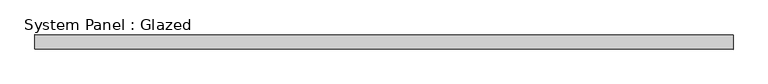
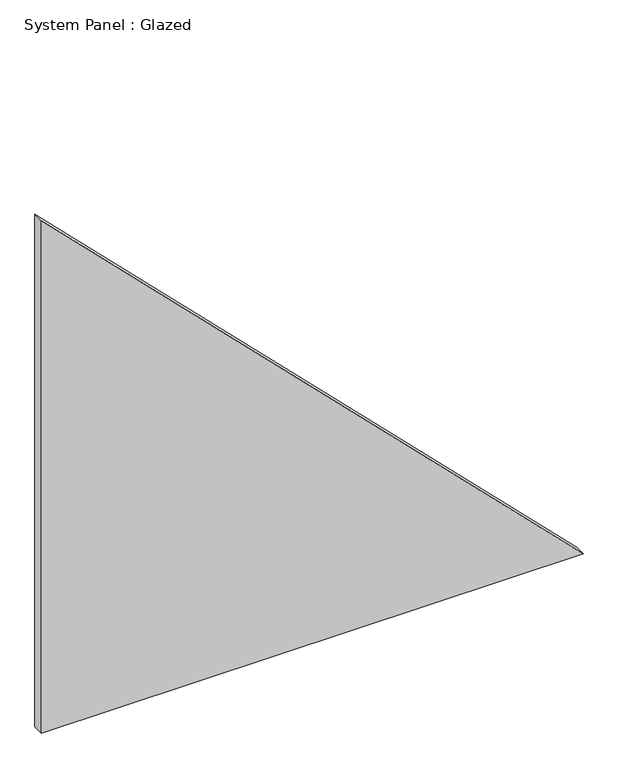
"""IFC4 building model written with IfcOpenShell, lengths in millimetres: plate geometry, System Panel : Glazed."""

from ifc_helpers import new_model, si_unit, frame, origin, place, context, project, spatial, polyline, outline, extrude, source, transform, mapped, element, save


def system_panel_glazed_0444e5be(model_context):
    return source(origin(), model_context, "Body", "SweptSolid", [
        extrude(outline(polyline([(0.0, -600.0), (0.0, 600.0), (1200.0, -600.0), (0.0, -600.0)])), frame((0.0, -49.5, 0.0), z_axis=(0.0, 1.0, 0.0), x_axis=(0.0, 0.0, 1.0)), (0.0, 0.0, 1.0), 25.0),
    ])


if __name__ == "__main__":
    model = new_model("IFC4")
    model_context = context("Model", 3, world=origin())
    ifc_project = project(units=[si_unit("LENGTHUNIT", "METRE", prefix="MILLI")], contexts=[model_context])
    site = spatial("IfcSite", under=ifc_project)
    building = spatial("IfcBuilding", under=site)
    placement = place(None, origin())
    system_panel_glazed_shape = system_panel_glazed_0444e5be(model_context)
    element("IfcPlate", 1, ObjectType="System Panel : Glazed", at=placement, inside=building, context=model_context, shape_type="MappedRepresentation", body=[
        mapped(system_panel_glazed_shape, transform((0.0, 0.0, 0.0), x_axis=(1.0, 0.0, 0.0), y_axis=(0.0, 1.0, 0.0), z_axis=(0.0, 0.0, 1.0))),
    ])
    save(model, "model.ifc")
